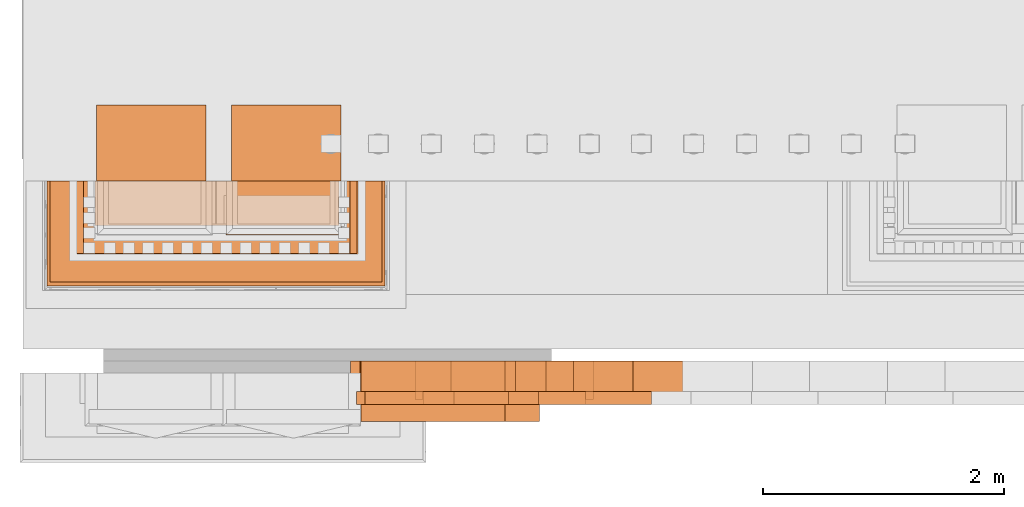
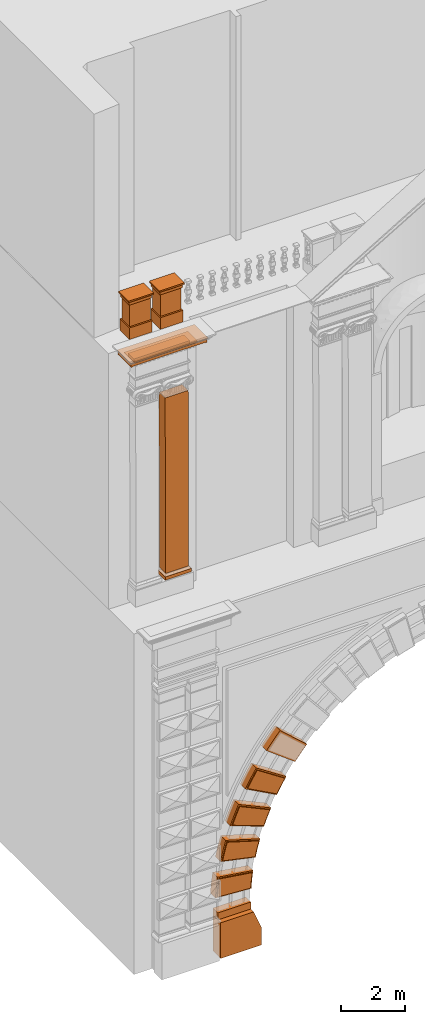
# One storey, part 5 of 44: 20 proxies.
"""IFC2X3 building model written with IfcOpenShell, lengths in metres."""

from ifc_helpers import new_model, entity, si_unit, converted_unit, derived_unit, direction, frame, frame_2d, origin, place, context, subcontext, project, spatial, polyline, circle_curve, parameter, trimmed, segment, composite_curve, rectangle, outline, extrude, faceted_brep, source, transform, mapped, material, type_object, type_shapes, element, save


model = new_model("IFC2X3")

# Units and contexts
model_context = context("Model", 3, precision=1e-05, world=origin(), true_north=direction((6.12303176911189e-17, 1.0)))
body_context = subcontext(model_context, "Body", "Model", "MODEL_VIEW")
ifc_project = project(units=[si_unit("LENGTHUNIT", "METRE"), si_unit("AREAUNIT", "SQUARE_METRE"), si_unit("VOLUMEUNIT", "CUBIC_METRE"), converted_unit("PLANEANGLEUNIT", "DEGREE", entity("IfcRatioMeasure", 0.0174532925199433), si_unit("PLANEANGLEUNIT", "RADIAN"), dimensions=[0, 0, 0, 0, 0, 0, 0]), si_unit("MASSUNIT", "GRAM", prefix="KILO"), derived_unit("MASSDENSITYUNIT", [(si_unit("MASSUNIT", "GRAM", prefix="KILO"), 1), (si_unit("LENGTHUNIT", "METRE"), -3)]), si_unit("TIMEUNIT", "SECOND"), si_unit("FREQUENCYUNIT", "HERTZ"), si_unit("THERMODYNAMICTEMPERATUREUNIT", "DEGREE_CELSIUS"), derived_unit("THERMALTRANSMITTANCEUNIT", [(si_unit("MASSUNIT", "GRAM", prefix="KILO"), 1), (si_unit("THERMODYNAMICTEMPERATUREUNIT", "KELVIN"), -1), (si_unit("TIMEUNIT", "SECOND"), -3)]), derived_unit("VOLUMETRICFLOWRATEUNIT", [(si_unit("LENGTHUNIT", "METRE"), 3), (si_unit("TIMEUNIT", "SECOND"), -1)]), si_unit("ELECTRICCURRENTUNIT", "AMPERE"), si_unit("ELECTRICVOLTAGEUNIT", "VOLT"), si_unit("POWERUNIT", "WATT"), si_unit("FORCEUNIT", "NEWTON", prefix="KILO"), si_unit("ILLUMINANCEUNIT", "LUX"), si_unit("LUMINOUSFLUXUNIT", "LUMEN"), si_unit("LUMINOUSINTENSITYUNIT", "CANDELA"), derived_unit("USERDEFINED", [(si_unit("MASSUNIT", "GRAM", prefix="KILO"), -1), (si_unit("LENGTHUNIT", "METRE"), -2), (si_unit("TIMEUNIT", "SECOND"), 3), (si_unit("LUMINOUSFLUXUNIT", "LUMEN"), 1)]), derived_unit("LINEARVELOCITYUNIT", [(si_unit("LENGTHUNIT", "METRE"), 1), (si_unit("TIMEUNIT", "SECOND"), -1)]), si_unit("PRESSUREUNIT", "PASCAL"), derived_unit("USERDEFINED", [(si_unit("LENGTHUNIT", "METRE"), -2), (si_unit("MASSUNIT", "GRAM", prefix="KILO"), 1), (si_unit("TIMEUNIT", "SECOND"), -2)])], contexts=[model_context])

# Site, building, storey
site_placement = place(None, origin())
site = spatial("IfcSite", under=ifc_project, at=site_placement, Name="Default", CompositionType="ELEMENT")
building_placement = place(site_placement, origin())
building = spatial("IfcBuilding", under=site, at=building_placement, CompositionType="ELEMENT")
storey_placement = place(building_placement, origin())
storey = spatial("IfcBuildingStorey", under=building, at=storey_placement, Name="Livello 1", CompositionType="ELEMENT", Elevation=0.0)

# Proxies
ifc_material_1 = material(Name="Piperno")
building_element_proxy_type = type_object("IfcBuildingElementProxyType", Name="Piedistallo_balaustra terrazzo", PredefinedType="NOTDEFINED", material=ifc_material_1)
shared_shape = source(origin(), body_context, "Body", "Brep", [
    faceted_brep([(0.046908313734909, 0.593560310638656, 1.29866715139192), (0.046908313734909, 0.593560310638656, 1.3744703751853), (0.456758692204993, 0.593560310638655, 1.3744703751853), (0.866608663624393, 0.593560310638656, 1.3744703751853), (0.866608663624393, 0.593560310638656, 1.29866715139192), (0.0819082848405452, 0.558560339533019, 1.29871212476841), (0.831608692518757, 0.558560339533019, 1.29871212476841), (0.0819082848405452, 0.558560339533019, 1.44170839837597), (0.831608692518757, 0.558560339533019, 1.44170839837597), (0.0453685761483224, 0.595100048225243, 1.39169607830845), (0.547469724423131, 0.594325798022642, 1.38754596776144), (0.456758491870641, 0.617051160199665, 1.4288318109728), (0.501016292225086, 0.605457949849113, 1.41575397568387), (0.0299184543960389, 0.610550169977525, 1.42233581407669), (0.896533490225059, 0.623485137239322, 1.43381545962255), (0.883598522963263, 0.610550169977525, 1.42233581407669), (0.0395835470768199, 0.600885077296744, 1.40799420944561), (0.456758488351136, 0.597554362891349, 1.40023980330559), (0.477394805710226, 0.627932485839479, 1.43661435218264), (0.016983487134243, 0.623485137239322, 1.43381545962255), (0.622237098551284, 0.638873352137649, 1.44170839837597), (0.911921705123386, 0.638873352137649, 1.44170839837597), (0.332552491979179, 0.638873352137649, 1.44170839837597), (0.0015952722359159, 0.638873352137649, 1.44170839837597), (0.873933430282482, 0.600885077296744, 1.40799420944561), (0.86814840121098, 0.595100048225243, 1.39169607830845), (0.866608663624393, 0.0469083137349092, 1.3744703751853), (0.866608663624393, 0.0469083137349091, 1.29866715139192), (0.831608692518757, 0.0819082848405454, 1.29871212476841), (0.831608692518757, 0.0819082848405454, 1.44170839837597), (0.889974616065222, 0.32023431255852, 1.42872239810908), (0.90037284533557, 0.325542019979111, 1.43625922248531), (0.911921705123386, 0.291279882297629, 1.44170839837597), (0.911921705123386, 0.00159527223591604, 1.44170839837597), (0.883598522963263, 0.02991845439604, 1.42233581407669), (0.896533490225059, 0.0169834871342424, 1.43381545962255), (0.873933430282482, 0.0395835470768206, 1.40799420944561), (0.86814840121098, 0.0453685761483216, 1.39169607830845), (0.456758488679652, 0.0469083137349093, 1.3744703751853), (0.046908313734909, 0.0469083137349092, 1.3744703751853), (0.046908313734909, 0.0469083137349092, 1.29866715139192), (0.0819082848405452, 0.0819082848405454, 1.29871212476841), (0.0819082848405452, 0.0819082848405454, 1.44170839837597), (0.366047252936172, 0.0461428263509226, 1.38754596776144), (0.456758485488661, 0.0234174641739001, 1.4288318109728), (0.412500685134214, 0.0350106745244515, 1.41575397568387), (0.016983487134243, 0.0169834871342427, 1.43381545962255), (0.0299184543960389, 0.02991845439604, 1.42233581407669), (0.456758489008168, 0.0429142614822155, 1.40023980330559), (0.436122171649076, 0.0125361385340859, 1.43661435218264), (0.291279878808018, 0.00159527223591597, 1.44170839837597), (0.0015952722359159, 0.00159527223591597, 1.44170839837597), (0.580964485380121, 0.00159527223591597, 1.44170839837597), (0.0395835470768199, 0.0395835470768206, 1.40799420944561), (0.0453685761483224, 0.0453685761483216, 1.39169607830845), (0.0015952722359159, 0.349188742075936, 1.44170839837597), (0.0235423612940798, 0.320234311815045, 1.42872239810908), (0.0131441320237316, 0.314926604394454, 1.43625922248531)], [[[0, 1, 2, 3, 4]], [[5, 0, 4, 6]], [[7, 5, 6, 8]], [[9, 10, 2]], [[11, 12, 13]], [[14, 15, 11]], [[16, 12, 17]], [[12, 11, 15]], [[18, 11, 19]], [[20, 21, 14]], [[22, 19, 23]], [[12, 15, 24]], [[16, 13, 12]], [[17, 10, 9]], [[25, 3, 10]], [[9, 2, 1]], [[17, 9, 16]], [[14, 18, 20]], [[25, 17, 24]], [[17, 25, 10]], [[11, 13, 19]], [[22, 18, 19]], [[24, 17, 12]], [[11, 18, 14]], [[22, 20, 18]], [[2, 10, 3]], [[4, 3, 26, 27]], [[6, 4, 27, 28]], [[8, 6, 28, 29]], [[30, 15, 14]], [[31, 21, 32, 33]], [[14, 31, 30]], [[34, 30, 35]], [[34, 36, 24, 15]], [[21, 31, 14]], [[30, 31, 35]], [[37, 26, 3, 25]], [[36, 37, 25, 24]], [[15, 30, 34]], [[31, 33, 35]], [[27, 26, 38, 39, 40]], [[28, 27, 40, 41]], [[29, 28, 41, 42]], [[37, 43, 38]], [[44, 45, 34]], [[46, 47, 44]], [[36, 45, 48]], [[45, 44, 47]], [[49, 44, 35]], [[50, 51, 46]], [[52, 35, 33]], [[45, 47, 53]], [[36, 34, 45]], [[48, 43, 37]], [[54, 39, 43]], [[37, 38, 26]], [[48, 37, 36]], [[46, 49, 50]], [[54, 48, 53]], [[48, 54, 43]], [[44, 34, 35]], [[52, 49, 35]], [[53, 48, 45]], [[44, 49, 46]], [[52, 50, 49]], [[38, 43, 39]], [[40, 39, 1, 0]], [[41, 40, 0, 5]], [[42, 41, 5, 7]], [[33, 29, 42]], [[29, 33, 8]], [[8, 33, 32]], [[42, 52, 33]], [[8, 32, 21]], [[8, 21, 7]], [[7, 21, 20]], [[7, 20, 22]], [[7, 22, 23]], [[7, 23, 55]], [[7, 55, 51]], [[51, 42, 7]], [[42, 51, 50]], [[42, 50, 52]], [[56, 47, 46]], [[57, 51, 55, 23]], [[46, 57, 56]], [[13, 56, 19]], [[13, 16, 53, 47]], [[51, 57, 46]], [[56, 57, 19]], [[9, 1, 39, 54]], [[16, 9, 54, 53]], [[47, 56, 13]], [[57, 23, 19]]]),
    faceted_brep([(0.911921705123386, 0.00159527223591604, 1.44170839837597), (0.911921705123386, 0.00159527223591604, 1.49643867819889), (0.0015952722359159, 0.00159527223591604, 1.49643867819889), (0.0015952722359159, 0.00159527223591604, 1.44170839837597), (0.911921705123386, 0.638873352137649, 1.44170839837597), (0.0015952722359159, 0.638873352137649, 1.44170839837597), (0.0015952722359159, 0.638873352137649, 1.49643867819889), (0.911921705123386, 0.638873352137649, 1.49643867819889)], [[[0, 1, 2, 3]], [[4, 5, 6, 7]], [[1, 0, 4, 7]], [[2, 1, 7, 6]], [[3, 2, 6, 5]], [[0, 3, 5, 4]]]),
    faceted_brep([(0.870792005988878, 0.01875005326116, 0.0), (0.870792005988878, 0.01875005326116, 0.44582479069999), (0.0423439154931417, 0.01875005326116, 0.44582479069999), (0.0423439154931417, 0.01875005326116, 0.0), (0.870792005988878, 0.609374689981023, 0.0), (0.0423439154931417, 0.609374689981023, 0.0), (0.0423439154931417, 0.609374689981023, 0.44582479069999), (0.870792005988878, 0.609374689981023, 0.44582479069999)], [[[0, 1, 2, 3]], [[4, 5, 6, 7]], [[1, 0, 4, 7]], [[2, 1, 7, 6]], [[3, 2, 6, 5]], [[0, 3, 5, 4]]]),
    faceted_brep([(0.0794676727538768, 0.079467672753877, 0.44582479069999), (0.834049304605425, 0.079467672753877, 0.445824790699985), (0.834049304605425, 0.079467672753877, 1.29967859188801), (0.0794676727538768, 0.079467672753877, 1.29967859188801), (0.0794676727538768, 0.561000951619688, 0.44582479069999), (0.0794676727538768, 0.561000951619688, 1.29967859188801), (0.834049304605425, 0.561000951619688, 1.29967859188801), (0.834049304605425, 0.561000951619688, 0.445824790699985)], [[[0, 1, 2, 3]], [[4, 5, 6, 7]], [[2, 1, 7, 6]], [[3, 2, 6, 5]], [[0, 3, 5, 4]], [[1, 0, 4, 7]]]),
])
type_shapes(building_element_proxy_type, [shared_shape])
for number, where, name in (
    (1, (-10.394085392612, 1.25399804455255, 23.294418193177), "Piedistallo_balaustra terrazzo:Piedistallo_balaustra terrazzo"),
    (2, (-11.514085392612, 1.25399804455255, 23.294418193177), "Piedistallo_balaustra terrazzo:Piedistallo_balaustra terrazzo"),
):
    element("IfcBuildingElementProxy", number, at=place(storey_placement, frame(where)), inside=storey, type_object=building_element_proxy_type, material=ifc_material_1, Name=name, ObjectType="Piedistallo_balaustra terrazzo", context=body_context, shape_type="MappedRepresentation", body=[
        mapped(shared_shape, transform((0.0, 0.0, 0.0), scale=1.0)),
    ])
proxy_1_placement = place(storey_placement, frame((-7.55291519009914, -0.554467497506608, 6.45986862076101)))
element("IfcBuildingElementProxy", 3, at=proxy_1_placement, inside=storey, material=ifc_material_1, Name="Stratigrafia", context=body_context, shape_type="SweptSolid", body=[
    extrude(outline(composite_curve([segment(polyline([(-0.667284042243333, -0.362933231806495), (0.636902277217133, -0.362933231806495)]), True, "CONTINUOUS"), segment(trimmed(circle_curve(frame_2d((8.67102557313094, -0.362933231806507), x_axis=(-0.112852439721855, 0.993611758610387)), 8.03412329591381), [parameter(78.7266972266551)], [parameter(83.5202274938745)], True, "PARAMETER"), False, "CONTINUOUS"), segment(polyline([(0.665003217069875, 0.308440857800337), (-0.634621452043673, 0.417425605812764)]), True, "CONTINUOUS"), segment(trimmed(circle_curve(frame_2d((8.67102557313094, -0.362933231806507), x_axis=(-0.112852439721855, 0.993611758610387)), 9.33830961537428), [parameter(78.7266972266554)], [parameter(83.5202274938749)], True, "PARAMETER"), True, "CONTINUOUS")], self_intersect=False)), frame((0.752819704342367, 0.0, 0.675030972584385), z_axis=(0.0, 1.0, 0.0), x_axis=(0.744891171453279, 0.0, -0.667185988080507)), (0.0, 0.0, 1.0), 0.32),
])
proxy_2_placement = place(storey_placement, frame((-8.32343933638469, -0.554467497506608, 5.42098436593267)))
element("IfcBuildingElementProxy", 4, at=proxy_2_placement, inside=storey, material=ifc_material_1, Name="Stratigrafia", context=body_context, shape_type="SweptSolid", body=[
    extrude(outline(composite_curve([segment(polyline([(-0.667284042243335, -0.362933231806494), (0.636902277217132, -0.362933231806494)]), True, "CONTINUOUS"), segment(trimmed(circle_curve(frame_2d((8.67102557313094, -0.362933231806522), x_axis=(-0.112852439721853, 0.993611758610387)), 8.03412329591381), [parameter(78.7266972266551)], [parameter(83.5202274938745)], True, "PARAMETER"), False, "CONTINUOUS"), segment(polyline([(0.665003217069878, 0.308440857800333), (-0.634621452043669, 0.417425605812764)]), True, "CONTINUOUS"), segment(trimmed(circle_curve(frame_2d((8.67102557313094, -0.362933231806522), x_axis=(-0.112852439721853, 0.993611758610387)), 9.33830961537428), [parameter(78.7266972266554)], [parameter(83.5202274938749)], True, "PARAMETER"), True, "CONTINUOUS")], self_intersect=False)), frame((0.761191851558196, 0.0, 0.624095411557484), z_axis=(0.0, 1.0, 0.0), x_axis=(0.836373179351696, 0.0, -0.548160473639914)), (0.0, 0.0, 1.0), 0.32),
])
proxy_3_placement = place(storey_placement, frame((-8.2556633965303, -0.594467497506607, 5.48869102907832)))
element("IfcBuildingElementProxy", 5, at=proxy_3_placement, inside=storey, material=ifc_material_1, Name="Stratigrafia", context=body_context, shape_type="SweptSolid", body=[
    extrude(outline(composite_curve([segment(trimmed(circle_curve(frame_2d((8.66960657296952, 0.362020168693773), x_axis=(-0.112852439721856, -0.993611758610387)), 9.28496378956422), [parameter(276.782159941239)], [parameter(280.96038991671)], True, "PARAMETER"), True, "CONTINUOUS"), segment(polyline([(-0.586980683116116, -0.363338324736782), (0.613152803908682, -0.262696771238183)]), True, "CONTINUOUS"), segment(trimmed(circle_curve(frame_2d((8.6730244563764, 0.363017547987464), x_axis=(-0.112852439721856, -0.993611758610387)), 8.08412329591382), [parameter(276.834147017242)], [parameter(280.918928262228)], True, "PARAMETER"), False, "CONTINUOUS"), segment(polyline([(0.589055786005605, 0.313017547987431), (-0.615227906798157, 0.313017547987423)]), True, "CONTINUOUS")], self_intersect=False)), frame((0.69169788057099, 0.0, 0.557413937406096), z_axis=(0.0, -1.0, 0.0), x_axis=(0.836373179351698, 0.0, -0.548160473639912)), (0.0, 0.0, -1.0), 0.11),
])
proxy_4_placement = place(storey_placement, frame((-8.86789980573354, -0.554467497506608, 4.36986366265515)))
element("IfcBuildingElementProxy", 6, at=proxy_4_placement, inside=storey, material=ifc_material_1, Name="Stratigrafia", context=body_context, shape_type="SweptSolid", body=[
    extrude(outline(composite_curve([segment(polyline([(-0.667284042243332, -0.362933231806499), (0.636902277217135, -0.362933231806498)]), True, "CONTINUOUS"), segment(trimmed(circle_curve(frame_2d((8.67102557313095, -0.362933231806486), x_axis=(-0.112852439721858, 0.993611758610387)), 8.03412329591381), [parameter(78.726697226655)], [parameter(83.5202274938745)], True, "PARAMETER"), False, "CONTINUOUS"), segment(polyline([(0.665003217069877, 0.30844085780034), (-0.634621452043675, 0.417425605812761)]), True, "CONTINUOUS"), segment(trimmed(circle_curve(frame_2d((8.67102557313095, -0.362933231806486), x_axis=(-0.112852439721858, 0.993611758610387)), 9.33830961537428), [parameter(78.7266972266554)], [parameter(83.5202274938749)], True, "PARAMETER"), True, "CONTINUOUS")], self_intersect=False)), frame((0.753063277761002, 0.0, 0.561726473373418), z_axis=(0.0, 1.0, 0.0), x_axis=(0.906713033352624, 0.0, -0.421748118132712)), (0.0, 0.0, 1.0), 0.32),
])
proxy_5_placement = place(storey_placement, frame((-8.8037400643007, -0.594467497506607, 4.43397481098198)))
element("IfcBuildingElementProxy", 7, at=proxy_5_placement, inside=storey, material=ifc_material_1, Name="Stratigrafia", context=body_context, shape_type="SweptSolid", body=[
    extrude(outline(composite_curve([segment(trimmed(circle_curve(frame_2d((8.66960657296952, 0.362020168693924), x_axis=(-0.112852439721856, -0.993611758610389)), 9.28496378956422), [parameter(276.782159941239)], [parameter(280.96038991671)], True, "PARAMETER"), True, "CONTINUOUS"), segment(polyline([(-0.586980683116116, -0.363338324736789), (0.613152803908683, -0.262696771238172)]), True, "CONTINUOUS"), segment(trimmed(circle_curve(frame_2d((8.6730244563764, 0.363017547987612), x_axis=(-0.112852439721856, -0.993611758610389)), 8.08412329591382), [parameter(276.834147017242)], [parameter(280.918928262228)], True, "PARAMETER"), False, "CONTINUOUS"), segment(polyline([(0.5890557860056, 0.31301754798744), (-0.615227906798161, 0.313017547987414)]), True, "CONTINUOUS")], self_intersect=False)), frame((0.687055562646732, 0.0, 0.498381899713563), z_axis=(0.0, -1.0, 0.0), x_axis=(0.906713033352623, 0.0, -0.421748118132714)), (0.0, 0.0, -1.0), 0.11),
])
proxy_6_placement = place(storey_placement, frame((-9.22470923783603, -0.554467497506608, 3.29247600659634)))
element("IfcBuildingElementProxy", 8, at=proxy_6_placement, inside=storey, material=ifc_material_1, Name="Stratigrafia", context=body_context, shape_type="SweptSolid", body=[
    extrude(outline(composite_curve([segment(polyline([(-0.667284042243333, -0.362933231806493), (0.636902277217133, -0.362933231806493)]), True, "CONTINUOUS"), segment(trimmed(circle_curve(frame_2d((8.67102557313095, -0.362933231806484), x_axis=(-0.112852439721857, 0.993611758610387)), 8.03412329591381), [parameter(78.7266972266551)], [parameter(83.5202274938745)], True, "PARAMETER"), False, "CONTINUOUS"), segment(polyline([(0.665003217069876, 0.308440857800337), (-0.634621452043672, 0.417425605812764)]), True, "CONTINUOUS"), segment(trimmed(circle_curve(frame_2d((8.67102557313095, -0.362933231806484), x_axis=(-0.112852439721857, 0.993611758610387)), 9.33830961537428), [parameter(78.7266972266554)], [parameter(83.5202274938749)], True, "PARAMETER"), True, "CONTINUOUS")], self_intersect=False)), frame((0.730007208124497, 0.0, 0.489654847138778), z_axis=(0.0, 1.0, 0.0), x_axis=(0.957014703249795, 0.0, -0.290039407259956)), (0.0, 0.0, 1.0), 0.32),
])
proxy_7_placement = place(storey_placement, frame((-9.16536629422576, -0.594467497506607, 3.35179149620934)))
element("IfcBuildingElementProxy", 9, at=proxy_7_placement, inside=storey, material=ifc_material_1, Name="Stratigrafia", context=body_context, shape_type="SweptSolid", body=[
    extrude(outline(composite_curve([segment(trimmed(circle_curve(frame_2d((8.66960657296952, 0.362020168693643), x_axis=(-0.112852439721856, -0.993611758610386)), 9.28496378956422), [parameter(276.782159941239)], [parameter(280.96038991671)], True, "PARAMETER"), True, "CONTINUOUS"), segment(polyline([(-0.586980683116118, -0.363338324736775), (0.613152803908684, -0.262696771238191)]), True, "CONTINUOUS"), segment(trimmed(circle_curve(frame_2d((8.6730244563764, 0.363017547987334), x_axis=(-0.112852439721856, -0.993611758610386)), 8.08412329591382), [parameter(276.834147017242)], [parameter(280.918928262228)], True, "PARAMETER"), False, "CONTINUOUS"), segment(polyline([(0.5890557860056, 0.313017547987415), (-0.615227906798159, 0.313017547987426)]), True, "CONTINUOUS")], self_intersect=False)), frame((0.668726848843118, 0.0, 0.430838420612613), z_axis=(0.0, -1.0, 0.0), x_axis=(0.957014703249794, 0.0, -0.290039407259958)), (0.0, 0.0, -1.0), 0.11),
])
proxy_8_placement = place(storey_placement, frame((-9.40535770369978, -0.554467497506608, 2.15061440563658)))
element("IfcBuildingElementProxy", 10, at=proxy_8_placement, inside=storey, material=ifc_material_1, Name="Stratigrafia", context=body_context, shape_type="SweptSolid", body=[
    extrude(outline(composite_curve([segment(polyline([(-0.66728404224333, -0.362933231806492), (0.636902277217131, -0.362933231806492)]), True, "CONTINUOUS"), segment(trimmed(circle_curve(frame_2d((8.67102557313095, -0.36293323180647), x_axis=(-0.112852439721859, 0.993611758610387)), 8.03412329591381), [parameter(78.7266972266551)], [parameter(83.5202274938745)], True, "PARAMETER"), False, "CONTINUOUS"), segment(polyline([(0.665003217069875, 0.308440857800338), (-0.634621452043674, 0.417425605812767)]), True, "CONTINUOUS"), segment(trimmed(circle_curve(frame_2d((8.67102557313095, -0.36293323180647), x_axis=(-0.112852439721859, 0.993611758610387)), 9.33830961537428), [parameter(78.7266972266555)], [parameter(83.5202274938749)], True, "PARAMETER"), True, "CONTINUOUS")], self_intersect=False)), frame((0.690348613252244, 0.0, 0.403798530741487), z_axis=(0.0, 1.0, 0.0), x_axis=(0.98929006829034, 0.0, -0.145962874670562)), (0.0, 0.0, 1.0), 0.32),
])
proxy_9_placement = place(storey_placement, frame((-9.35232221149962, -0.594467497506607, 2.20364516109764)))
element("IfcBuildingElementProxy", 11, at=proxy_9_placement, inside=storey, material=ifc_material_1, Name="Stratigrafia", context=body_context, shape_type="SweptSolid", body=[
    extrude(outline(composite_curve([segment(trimmed(circle_curve(frame_2d((8.66960657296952, 0.362020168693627), x_axis=(-0.112852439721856, -0.993611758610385)), 9.28496378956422), [parameter(276.782159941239)], [parameter(280.96038991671)], True, "PARAMETER"), True, "CONTINUOUS"), segment(polyline([(-0.586980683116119, -0.363338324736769), (0.613152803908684, -0.262696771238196)]), True, "CONTINUOUS"), segment(trimmed(circle_curve(frame_2d((8.67302445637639, 0.363017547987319), x_axis=(-0.112852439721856, -0.993611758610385)), 8.08412329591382), [parameter(276.834147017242)], [parameter(280.918928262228)], True, "PARAMETER"), False, "CONTINUOUS"), segment(polyline([(0.5890557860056, 0.313017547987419), (-0.615227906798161, 0.313017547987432)]), True, "CONTINUOUS")], self_intersect=False)), frame((0.635323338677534, 0.0, 0.350976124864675), z_axis=(0.0, -1.0, 0.0), x_axis=(0.98929006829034, 0.0, -0.145962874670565)), (0.0, 0.0, -1.0), 0.11),
])
proxy_10_placement = place(storey_placement, frame((-9.31458933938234, -0.734467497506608, 2.46119780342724e-09)))
element("IfcBuildingElementProxy", 12, at=proxy_10_placement, inside=storey, material=ifc_material_1, Name="Stratigrafia", context=body_context, shape_type="SweptSolid", body=[
    extrude(outline(polyline([(-0.650306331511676, -0.679717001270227), (0.83214610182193, -0.679717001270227), (0.832146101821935, 0.687701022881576), (-0.363679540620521, 0.687701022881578), (-0.650306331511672, -0.0159680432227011), (-0.650306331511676, -0.679717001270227)])), frame((0.832146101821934, 0.0, 0.67971700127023), z_axis=(0.0, 1.0, 0.0), x_axis=(-1.0, 0.0, 0.0)), (0.0, 0.0, 1.0), 0.5),
])
ifc_material_2 = material(Name="Travertino")
proxy_11_placement = place(storey_placement, frame((-9.31458933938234, -0.554467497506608, 1.36741802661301)))
element("IfcBuildingElementProxy", 13, at=proxy_11_placement, inside=storey, material=ifc_material_2, Name="Stratigrafia", context=body_context, shape_type="SweptSolid", body=[
    extrude(rectangle(XDim=0.268713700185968, YDim=0.32, at=frame_2d((0.0, 0.0), x_axis=(0.0, 1.0))), frame((0.0, 0.16, 0.134356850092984), z_axis=(1.0, 0.0, 0.0), x_axis=(0.0, 1.0, 0.0)), (0.0, 0.0, 1.0), 1.19584795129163),
])
proxy_12_placement = place(storey_placement, frame((-11.8982909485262, 0.423372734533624, 22.8833565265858)))
element("IfcBuildingElementProxy", 14, at=proxy_12_placement, inside=storey, material=ifc_material_1, Name="Stratigrafia", context=body_context, shape_type="SweptSolid", body=[
    extrude(outline(composite_curve([segment(polyline([(-1.37464440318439, -0.0958582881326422), (1.38110087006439, -0.0958582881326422)]), True, "CONTINUOUS"), segment(polyline([(1.38110087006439, -0.0958582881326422), (1.38110087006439, 0.0283079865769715)]), True, "CONTINUOUS"), segment(polyline([(1.38110087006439, 0.0283079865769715), (1.3399566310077, 0.0283079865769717)]), True, "CONTINUOUS"), segment(trimmed(circle_curve(frame_2d((1.40168375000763, -0.130507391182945), x_axis=(-0.434562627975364, 0.900641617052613)), 0.170389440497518), [parameter(355.482252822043)], [parameter(9.6688862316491e-12)], True, "PARAMETER"), True, "CONTINUOUS"), segment(trimmed(circle_curve(frame_2d((1.36418086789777, -0.0568755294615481), x_axis=(-0.665091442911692, 0.746761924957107)), 0.0877941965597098), [parameter(342.907043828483)], [parameter(359.999999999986)], True, "PARAMETER"), True, "CONTINUOUS"), segment(trimmed(circle_curve(frame_2d((1.33490071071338, -0.0221742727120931), x_axis=(-0.774172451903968, 0.63297473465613)), 0.0424240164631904), [parameter(352.599342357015)], [parameter(359.999999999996)], True, "PARAMETER"), True, "CONTINUOUS"), segment(polyline([(1.30205720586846, 0.0046790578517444), (-1.30619283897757, 0.00470999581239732)]), True, "CONTINUOUS"), segment(trimmed(circle_curve(frame_2d((-1.33387887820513, -0.0106768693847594), x_axis=(0.676146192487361, 0.736767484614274)), 0.0316744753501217), [parameter(341.606890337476)], [parameter(359.999999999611)], True, "PARAMETER"), True, "CONTINUOUS"), segment(trimmed(circle_curve(frame_2d((-1.36485015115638, -0.0461607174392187), x_axis=(0.41621296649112, 0.909267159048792)), 0.0787676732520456), [parameter(342.906245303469)], [parameter(359.999999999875)], True, "PARAMETER"), True, "CONTINUOUS"), segment(trimmed(circle_curve(frame_2d((-1.39381712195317, -0.102032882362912), x_axis=(0.397147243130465, 0.917754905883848)), 0.141660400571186), [parameter(357.556786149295)], [parameter(1.52666624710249e-13)], True, "PARAMETER"), True, "CONTINUOUS"), segment(polyline([(-1.33755708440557, 0.0279766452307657), (-1.37472148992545, 0.0279766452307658)]), True, "CONTINUOUS"), segment(polyline([(-1.37472148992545, 0.0279766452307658), (-1.37464440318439, -0.0958582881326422)]), True, "CONTINUOUS")], self_intersect=False)), frame((1.37472148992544, 0.0, 0.0299032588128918), z_axis=(0.0, 1.0, 0.0), x_axis=(1.0, 0.0, 0.0)), (0.0, 0.0, 1.0), 0.84),
])
proxy_13_placement = place(storey_placement, frame((-11.6784437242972, 0.661139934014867, 22.8183261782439)))
element("IfcBuildingElementProxy", 15, at=proxy_13_placement, inside=storey, material=ifc_material_1, Name="Stratigrafia", context=body_context, shape_type="SweptSolid", body=[
    extrude(outline(composite_curve([segment(trimmed(circle_curve(frame_2d((1.0753705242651, 0.16538884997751), x_axis=(1.0, 0.0)), 0.0768787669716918), [parameter(292.775176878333)], [parameter(4.73266536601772e-12)], True, "PARAMETER"), True, "CONTINUOUS"), segment(polyline([(1.15224929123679, 0.165388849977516), (-1.15968712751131, -0.100785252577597)]), True, "CONTINUOUS"), segment(trimmed(circle_curve(frame_2d((-1.08481975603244, -0.0833146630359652), x_axis=(-0.973836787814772, -0.227248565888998)), 0.0768787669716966), [parameter(359.999999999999)], [parameter(67.2248231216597)], True, "PARAMETER"), True, "CONTINUOUS"), segment(polyline([(-1.09769370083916, -0.159107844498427), (1.10513153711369, 0.0945042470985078)]), True, "CONTINUOUS")], self_intersect=False)), frame((1.16519944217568, 0.0, 0.0341104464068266), z_axis=(0.0, 1.0, 0.0), x_axis=(-0.993437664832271, 0.0, -0.114374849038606)), (0.0, 0.0, 1.0), 0.602232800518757),
])
proxy_14_placement = place(storey_placement, frame((-11.6213704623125, 0.661139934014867, 22.7953635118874)))
element("IfcBuildingElementProxy", 16, at=proxy_14_placement, inside=storey, material=ifc_material_1, Name="Stratigrafia", context=body_context, shape_type="SweptSolid", body=[
    extrude(rectangle(XDim=0.0245579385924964, YDim=0.602232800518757, at=frame_2d((5.55111512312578e-17, 2.16580225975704e-15), x_axis=(0.0, 1.0))), frame((0.0, 0.301116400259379, 0.012278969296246), z_axis=(1.0, 0.0, 0.0), x_axis=(0.0, 1.0, 0.0)), (0.0, 0.0, 1.0), 2.21681438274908),
])
proxy_15_placement = place(storey_placement, frame((-11.5261884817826, 0.893372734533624, 22.6694480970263)))
element("IfcBuildingElementProxy", 17, at=proxy_15_placement, inside=storey, material=ifc_material_1, Name="Stratigrafia", context=body_context, shape_type="SweptSolid", body=[
    extrude(rectangle(XDim=0.125915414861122, YDim=0.37, at=frame_2d((6.93889390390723e-17, -2.17187379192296e-15), x_axis=(0.0, 1.0))), frame((0.0, 0.185, 0.0629577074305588), z_axis=(1.0, 0.0, 0.0), x_axis=(0.0, 1.0, 0.0)), (0.0, 0.0, 1.0), 2.02771748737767),
])
proxy_16_placement = place(storey_placement, frame((-10.4352323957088, 0.813372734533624, 13.9695216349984)))
element("IfcBuildingElementProxy", 18, at=proxy_16_placement, inside=storey, material=ifc_material_1, Name="Stratigrafia", context=body_context, shape_type="SweptSolid", body=[
    extrude(rectangle(XDim=0.129364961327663, YDim=0.45, at=frame_2d((0.0, 0.0), x_axis=(0.0, 1.0))), frame((0.0, 0.225, 0.0646824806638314), z_axis=(1.0, 0.0, 0.0), x_axis=(0.0, 1.0, 0.0)), (0.0, 0.0, 1.0), 0.956412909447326),
])
proxy_17_placement = place(storey_placement, frame((-10.3993524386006, 0.883372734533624, 14.1698159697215)))
element("IfcBuildingElementProxy", 19, at=proxy_17_placement, inside=storey, material=ifc_material_1, Name="Stratigrafia", context=body_context, shape_type="SweptSolid", body=[
    extrude(rectangle(XDim=6.74573124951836, YDim=0.38, at=frame_2d((0.0, 0.0), x_axis=(0.0, 1.0))), frame((0.00875481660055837, 0.19, 3.37285426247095), z_axis=(0.999996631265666, 0.0, 0.00259566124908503), x_axis=(0.0, 1.0, 0.0)), (0.0, -0.00259566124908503, 0.999996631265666), 0.838920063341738),
])
proxy_18_placement = place(storey_placement, frame((-11.9228312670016, 0.391034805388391, 23.0455106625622)))
element("IfcBuildingElementProxy", 20, at=proxy_18_placement, inside=storey, material=ifc_material_1, Name="Stratigrafia", context=body_context, shape_type="SweptSolid", body=[
    extrude(rectangle(XDim=0.0172851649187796, YDim=0.872337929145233, at=frame_2d((-5.55111512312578e-17, -2.16580225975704e-15), x_axis=(0.0, 1.0))), frame((0.0, 0.436168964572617, 0.00864258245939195), z_axis=(1.0, 0.0, 0.0), x_axis=(0.0, -1.0, 0.0)), (0.0, 0.0, 1.0), 2.80849522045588),
])

save(model, "model.ifc")
